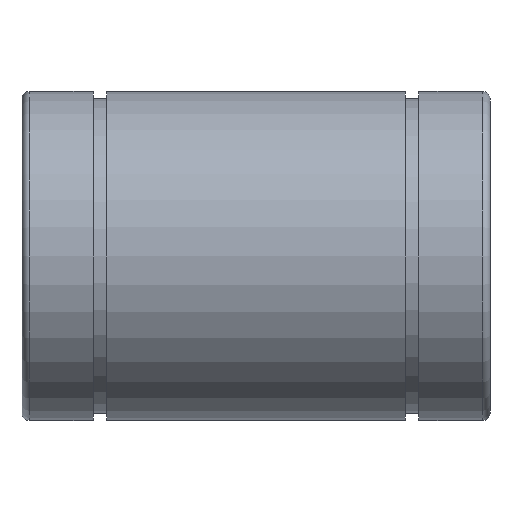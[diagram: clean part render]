
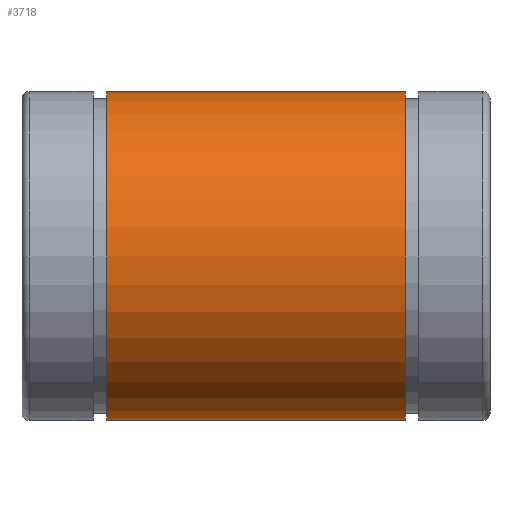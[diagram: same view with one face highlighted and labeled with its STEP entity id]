
A CAD part, front view. The second image highlights one B-rep face of the part: STEP entity #3718.
In plain terms, the highlighted cylindrical face has radius 22.5 mm (diameter 45 mm), a full revolution.
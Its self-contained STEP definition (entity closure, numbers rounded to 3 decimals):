
#23=CYLINDRICAL_SURFACE('',#3863,22.5);
#38=CIRCLE('',#3864,22.5);
#39=CIRCLE('',#3865,22.5);
#67=FACE_BOUND('',#546,.T.);
#328=FACE_OUTER_BOUND('',#545,.T.);
#545=EDGE_LOOP('',(#3328));
#546=EDGE_LOOP('',(#3329));
#1791=VERTEX_POINT('',#6624);
#1792=VERTEX_POINT('',#6626);
#2310=EDGE_CURVE('',#1791,#1791,#38,.T.);
#2311=EDGE_CURVE('',#1792,#1792,#39,.T.);
#3328=ORIENTED_EDGE('',*,*,#2310,.F.);
#3329=ORIENTED_EDGE('',*,*,#2311,.T.);
#3718=ADVANCED_FACE('',(#328,#67),#23,.T.);
#3863=AXIS2_PLACEMENT_3D('',#6623,#4524,#4525);
#3864=AXIS2_PLACEMENT_3D('',#6625,#4526,#4527);
#3865=AXIS2_PLACEMENT_3D('',#6627,#4528,#4529);
#4524=DIRECTION('center_axis',(1.,0.,0.));
#4525=DIRECTION('ref_axis',(0.,1.,0.));
#4526=DIRECTION('center_axis',(1.,0.,0.));
#4527=DIRECTION('ref_axis',(0.,1.,0.));
#4528=DIRECTION('center_axis',(1.,0.,0.));
#4529=DIRECTION('ref_axis',(0.,1.,0.));
#6623=CARTESIAN_POINT('Origin',(0.,0.,0.));
#6624=CARTESIAN_POINT('',(20.4,-22.5,0.));
#6625=CARTESIAN_POINT('Origin',(20.4,0.,0.));
#6626=CARTESIAN_POINT('',(-20.4,-22.5,0.));
#6627=CARTESIAN_POINT('Origin',(-20.4,0.,0.));
